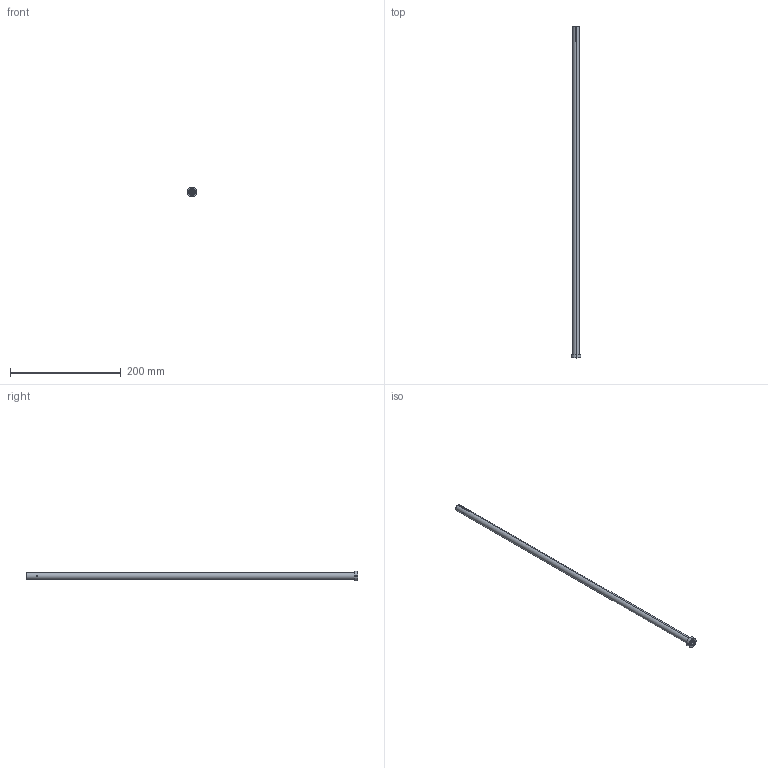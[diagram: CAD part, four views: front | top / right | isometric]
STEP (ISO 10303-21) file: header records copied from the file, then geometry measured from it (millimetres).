
FILE_DESCRIPTION (( 'STEP AP203' ), '1' );
FILE_NAME ('SGDE-1205x600.STEP', '2019-09-30T12:36:23', ( '' ), ( '' ), 'SwSTEP 2.0', 'SolidWorks 2019', '' );
FILE_SCHEMA (( 'CONFIG_CONTROL_DESIGN' ));
Length unit declared in the file: millimetre
Products named in the file (1): SGDE-1205x600
Bounding box: 18 x 600.5 x 18 mm (x, y, z)
Volume: 47141.3 mm3; surface area: 37050.4 mm2
Topology: 1 solids, 1 shells, 84 faces, 234 edges, 154 vertices
Faces by surface type: cylinder 48, plane 32, cone 4
Entity records: 3449 total; most frequent: CARTESIAN_POINT 1213, ORIENTED_EDGE 468, DIRECTION 422, EDGE_CURVE 234, AXIS2_PLACEMENT_3D 155, VERTEX_POINT 154, LINE 112, VECTOR 112
